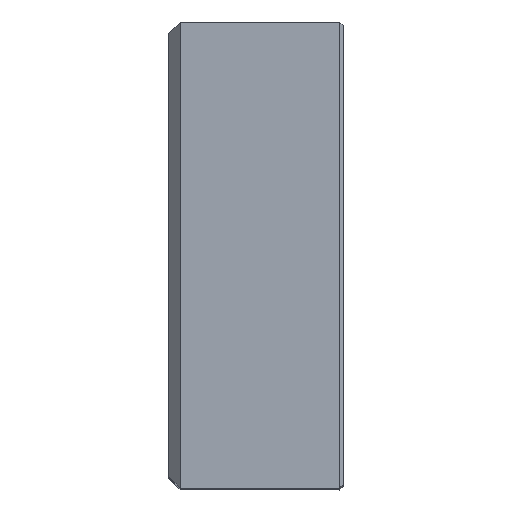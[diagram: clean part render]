
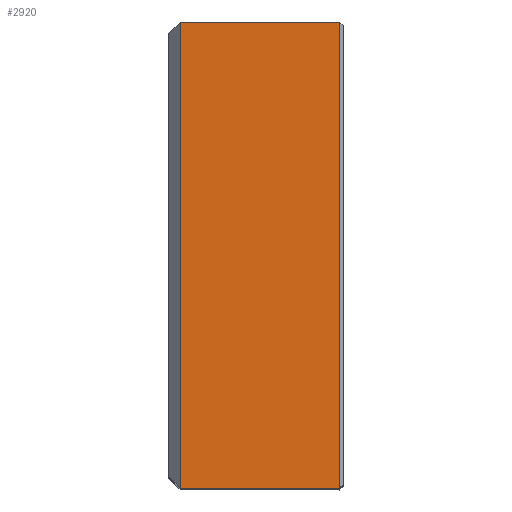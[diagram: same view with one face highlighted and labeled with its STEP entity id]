
A CAD part, top view. The second image highlights one B-rep face of the part: STEP entity #2920.
In plain terms, the highlighted planar face has unit normal (0, 0, 1).
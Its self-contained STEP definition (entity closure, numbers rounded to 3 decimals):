
#251=VERTEX_POINT(' ',#252);
#252=CARTESIAN_POINT('',(44.,-60.,0.));
#261=VERTEX_POINT(' ',#262);
#262=CARTESIAN_POINT('',(44.,60.,0.));
#295=VERTEX_POINT(' ',#296);
#296=CARTESIAN_POINT('',(3.,-60.,0.));
#303=VERTEX_POINT(' ',#304);
#304=CARTESIAN_POINT('',(3.,60.,0.));
#1341=LINE('',#1342,#1343);
#1342=CARTESIAN_POINT('',(44.,65.657,0.));
#1343=VECTOR('',#1344,1.);
#1344=DIRECTION('',(0.,-1.,0.));
#1345=EDGE_CURVE(' ',#261,#251,#1341,.T.);
#1505=LINE('',#1506,#1507);
#1506=CARTESIAN_POINT('',(45.12,-60.,0.));
#1507=VECTOR('',#1508,1.);
#1508=DIRECTION('',(-1.,0.,0.));
#1509=EDGE_CURVE(' ',#251,#295,#1505,.T.);
#1544=LINE('',#1545,#1546);
#1545=CARTESIAN_POINT('',(3.,-73.971,0.));
#1546=VECTOR('',#1547,1.);
#1547=DIRECTION('',(0.,1.,0.));
#1548=EDGE_CURVE(' ',#295,#303,#1544,.T.);
#1549=LINE('',#1550,#1551);
#1550=CARTESIAN_POINT('',(45.12,60.,0.));
#1551=VECTOR('',#1552,1.);
#1552=DIRECTION('',(-1.,0.,0.));
#1553=EDGE_CURVE(' ',#261,#303,#1549,.T.);
#2909=ORIENTED_EDGE('',*,*,#1548,.F.);
#2910=ORIENTED_EDGE('',*,*,#1509,.F.);
#2911=ORIENTED_EDGE('',*,*,#1345,.F.);
#2912=ORIENTED_EDGE('',*,*,#1553,.T.);
#2913=EDGE_LOOP('',(#2909,#2910,#2911,#2912));
#2914=FACE_OUTER_BOUND('',#2913,.T.);
#2915=PLANE('',#2916);
#2916=AXIS2_PLACEMENT_3D('',#2917,#2918,#2919);
#2917=CARTESIAN_POINT('',(0.,-60.,0.));
#2918=DIRECTION('',(0.,0.,1.));
#2919=DIRECTION('',(0.,1.,0.));
#2920=ADVANCED_FACE('',(#2914),#2915,.T.);
